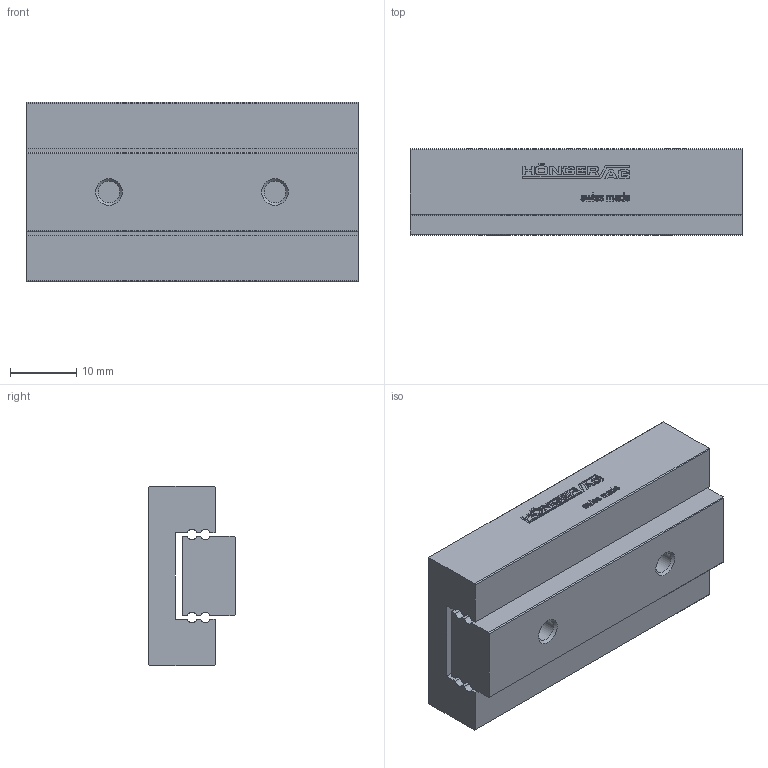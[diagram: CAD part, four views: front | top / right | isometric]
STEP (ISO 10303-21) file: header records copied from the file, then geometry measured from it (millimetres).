
FILE_DESCRIPTION(/* description */ ('STEP AP214'),/* implementation_level */ '2;1');
FILE_NAME(/* name */ 'MSK 12-50.48(0)',/* time_stamp */ '2025-04-16T17:03:38+02:00',/* author */ ('License CC BY-ND 4.0'),/* organization */ ('CADENAS'),/* preprocessor_version */ 'ST-DEVELOPER v19.3',/* originating_system */ 'PARTsolutions',/* authorisation */ ' ');
FILE_SCHEMA (('AUTOMOTIVE_DESIGN {1 0 10303 214 3 1 1}'));
Length unit declared in the file: millimetre
Products named in the file (3): MSK 12-50.48(0); MSK 12-50.48_1; MSK 12-50.48_2
Assembly tree (2 placements, depth 2):
  MSK 12-50.48(0)
    MSK 12-50.48_1
    MSK 12-50.48_2
Bounding box: 50 x 13 x 27 mm (x, y, z)
Volume: 13703.9 mm3; surface area: 7493.8 mm2
Topology: 2 solids, 2 shells, 529 faces, 1462 edges, 972 vertices
Faces by surface type: cylinder 310, plane 211, cone 8
Full cylindrical faces by diameter (mm): 2.459 x6, 3.242 x2, 6 x2
Entity records: 17113 total; most frequent: DIRECTION 3136, CARTESIAN_POINT 2948, ORIENTED_EDGE 2888, EDGE_CURVE 1444, AXIS2_PLACEMENT_3D 1160, VERTEX_POINT 972, LINE 816, VECTOR 816
